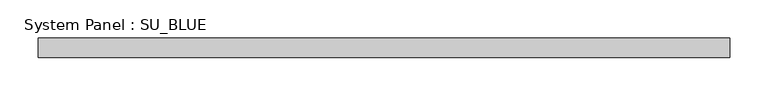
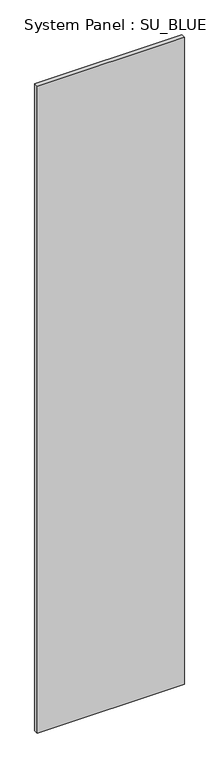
"""IFC4 building model written with IfcOpenShell, lengths in millimetres: plate geometry, System Panel : SU_BLUE."""

from ifc_helpers import new_model, si_unit, origin, origin_with_axes, place, context, project, spatial, polyline, outline, extrude, source, transform, mapped, element, save


def system_panel_su_blue_3781345d(model_context):
    return source(origin(), model_context, "Body", "SweptSolid", [
        extrude(outline(polyline([(452.5443201, 19.05), (-452.5443201, 19.05), (-452.5443201, 44.45), (452.5443201, 44.45), (452.5443201, 19.05)])), origin_with_axes(), (0.0, 0.0, 1.0), 4203.7),
    ])


if __name__ == "__main__":
    model = new_model("IFC4")
    model_context = context("Model", 3, world=origin())
    ifc_project = project(units=[si_unit("LENGTHUNIT", "METRE", prefix="MILLI")], contexts=[model_context])
    site = spatial("IfcSite", under=ifc_project)
    building = spatial("IfcBuilding", under=site)
    placement = place(None, origin())
    system_panel_su_blue_shape = system_panel_su_blue_3781345d(model_context)
    element("IfcPlate", 1, ObjectType="System Panel : SU_BLUE", at=placement, inside=building, context=model_context, shape_type="MappedRepresentation", body=[
        mapped(system_panel_su_blue_shape, transform((0.0, 0.0, 0.0), x_axis=(1.0, 0.0, 0.0), y_axis=(0.0, 1.0, 0.0), z_axis=(0.0, 0.0, 1.0))),
    ])
    save(model, "model.ifc")
